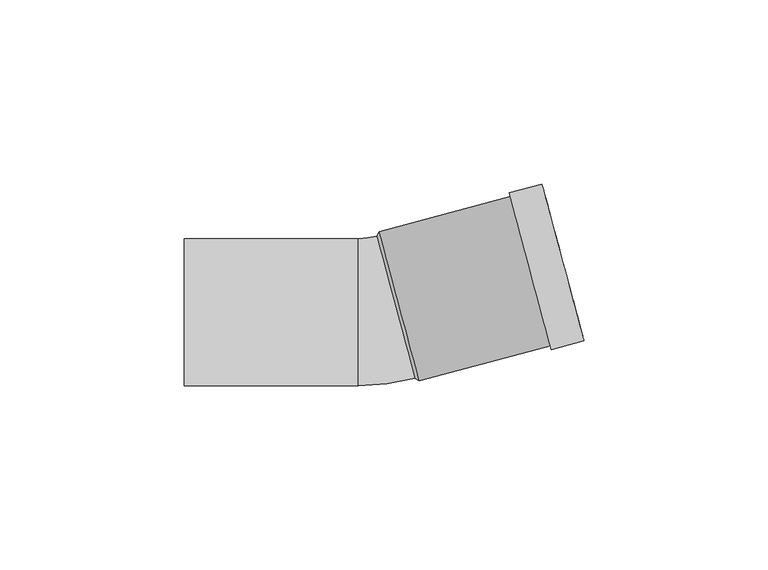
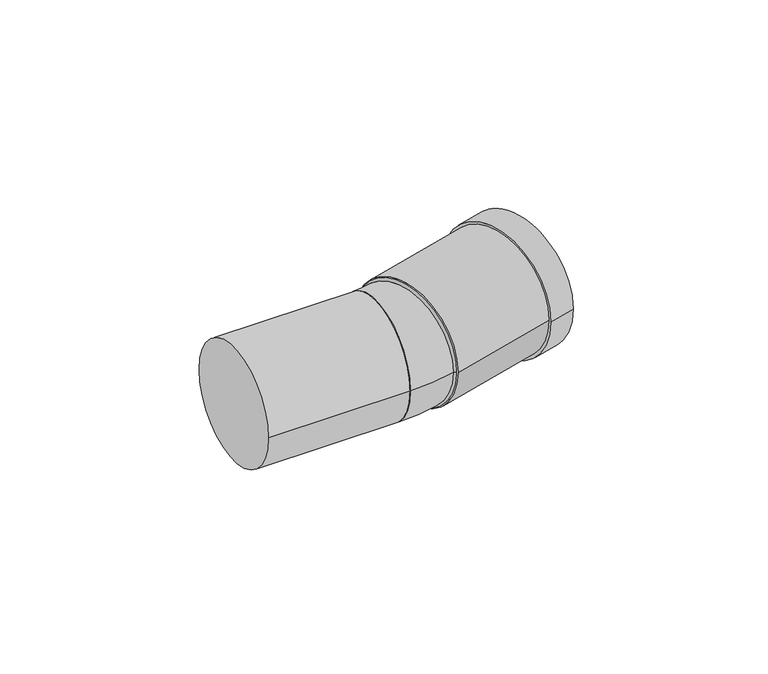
"""IFC4 building model written with IfcOpenShell, lengths in millimetres: pipe fitting geometry, Superdrain HT bend : Superdrain HT Bend."""

from ifc_helpers import new_model, si_unit, point, frame, origin, origin_2d, place, context, project, spatial, polyline, circle_curve, ellipse_curve, trimmed, segment, composite_curve, outline, extrude, source, transform, mapped, element, save
from ifc_brep_helpers import plane_surface, revolved_surface, advanced_brep


def pipe_fitting_fda7960f(model_context):
    return source(origin(), model_context, "Body", "SolidModel", [
        advanced_brep(
        [(10.1991952, -17.9726575, 0.0), (-0.1535666, 20.6643756, 0.0), (-5.2, -20.0, 0.0), (-5.2, 20.0, 0.0)],
        [
            (0, 1, circle_curve(frame((5.0228143, 1.345859, 0.0), z_axis=(0.965925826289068, 0.25881904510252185, 0.0), x_axis=(-0.25881904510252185, 0.965925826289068, 0.0)), 20.0)),
            (1, 0, circle_curve(frame((5.0228143, 1.345859, 0.0), z_axis=(0.965925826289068, 0.2588190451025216, 0.0), x_axis=(-0.2588190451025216, 0.965925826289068, 0.0)), 20.0)),
            (2, 3, circle_curve(frame((-5.2, 0.0, 0.0), z_axis=(-1.0, 0.0, 0.0), x_axis=(0.0, 1.0, 0.0)), 20.0)),
            (3, 2, circle_curve(frame((-5.2, 0.0, 0.0), z_axis=(-1.0, 0.0, 0.0), x_axis=(0.0, 1.0, 0.0)), 20.0)),
            (3, 1, circle_curve(frame((-5.2, 39.4979214, 0.0), z_axis=(0.0, 0.0, 1.0), x_axis=(1.0, 0.0, 0.0)), 19.4979214)),
            (0, 2, circle_curve(frame((-5.2, 39.4979214, 0.0), z_axis=(0.0, 0.0, -1.0), x_axis=(1.0, 0.0, 0.0)), 59.4979214)),
        ],
        [
            plane_surface(frame((5.0228143, 1.345859, 0.0), z_axis=(0.965925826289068, 0.25881904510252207, 0.0), x_axis=(0.0, 0.0, -1.0))),
            plane_surface(frame((-5.2, 0.0, 0.0), z_axis=(-1.0, 0.0, 0.0), x_axis=(0.0, 0.0, -1.0))),
            revolved_surface(trimmed(ellipse_curve(frame((34.2979214, 39.4979214, 0.0), z_axis=(0.0, -1.0, 0.0), x_axis=(-1.0, 0.0, 0.0)), 20.0, 20.0), [point((14.2979214, 39.4979214, 0.0))], [point((54.2979214, 39.4979214, 0.0))], True, "CARTESIAN"), (-5.2, 39.4979214, 0.0), (0.0, 0.0, 1.0)),
            revolved_surface(trimmed(ellipse_curve(frame((34.2979214, 39.4979214, 0.0), z_axis=(0.0, -1.0, 0.0), x_axis=(-1.0, 0.0, 0.0)), 20.0, 20.0), [point((54.2979214, 39.4979214, 0.0))], [point((14.2979214, 39.4979214, 0.0))], True, "CARTESIAN"), (-5.2, 39.4979214, 0.0), (0.0, 0.0, 1.0)),
        ],
        [
            (0, [[1, 2]]),
            (1, [[3, 4]]),
            (2, [[-4, 5, -1, 6]]),
            (3, [[-3, -6, -2, -5]]),
        ],
    ),
        extrude(outline(composite_curve([segment(trimmed(circle_curve(origin_2d(), 21.0), [point((0.0, 21.0000001))], [point((0.0, -20.9999999))], False, "CARTESIAN"), True, "CONTINUOUS"), segment(trimmed(circle_curve(origin_2d(), 21.0), [point((0.0, -20.9999999))], [point((0.0, 21.0000001))], False, "CARTESIAN"), True, "CONTINUOUS")], self_intersect=False), holes=[composite_curve([segment(trimmed(circle_curve(origin_2d(), 20.0), [point((0.0, 20.0))], [point((0.0, -20.0))], True, "CARTESIAN"), True, "CONTINUOUS"), segment(trimmed(circle_curve(origin_2d(), 20.0), [point((0.0, -20.0))], [point((0.0, 20.0))], True, "CARTESIAN"), True, "CONTINUOUS")], self_intersect=False)]), frame((5.9887401, 1.6046781, 0.0), z_axis=(0.9659258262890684, 0.2588190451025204, 0.0), x_axis=(0.0, 0.0, 1.0)), (0.0, 0.0, 1.0), 46.0),
        extrude(outline(composite_curve([segment(trimmed(circle_curve(origin_2d(), 22.05), [point((0.0, -22.05))], [point((0.0, 22.0499999))], False, "CARTESIAN"), True, "CONTINUOUS"), segment(trimmed(circle_curve(origin_2d(), 22.05), [point((0.0, 22.0499999))], [point((0.0, -22.05))], False, "CARTESIAN"), True, "CONTINUOUS")], self_intersect=False), holes=[composite_curve([segment(trimmed(circle_curve(origin_2d(), 20.0), [point((0.0, -20.0000001))], [point((0.0, 20.0))], True, "CARTESIAN"), True, "CONTINUOUS"), segment(trimmed(circle_curve(origin_2d(), 20.0), [point((0.0, 20.0))], [point((0.0, -20.0000001))], True, "CARTESIAN"), True, "CONTINUOUS")], self_intersect=False)]), frame((41.5348105, 11.1292189, 0.0), z_axis=(0.9659258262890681, 0.2588190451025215, 0.0), x_axis=(0.0, 0.0, 1.0)), (0.0, 0.0, 1.0), 9.2),
        advanced_brep(
        [(11.4239401, -18.6797643, 0.0), (0.5535402, 21.8891204, 0.0), (10.1991952, -17.9726575, 0.0), (-0.1535666, 20.6643756, 0.0)],
        [
            (0, 1, circle_curve(frame((5.9887401, 1.6046781, 0.0), z_axis=(0.9659258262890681, 0.25881904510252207, 0.0), x_axis=(0.25881904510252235, -0.965925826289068, 0.0)), 21.0)),
            (1, 0, circle_curve(frame((5.9887401, 1.6046781, 0.0), z_axis=(0.9659258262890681, 0.25881904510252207, 0.0), x_axis=(-0.2588190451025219, 0.965925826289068, 0.0)), 21.0)),
            (2, 3, circle_curve(frame((5.0228143, 1.345859, 0.0), z_axis=(-0.9659258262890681, -0.25881904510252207, 0.0), x_axis=(-0.2588190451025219, 0.965925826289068, 0.0)), 20.0)),
            (3, 2, circle_curve(frame((5.0228143, 1.345859, 0.0), z_axis=(-0.9659258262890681, -0.25881904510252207, 0.0), x_axis=(0.25881904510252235, -0.965925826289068, 0.0)), 20.0)),
            (3, 1),
            (0, 2),
        ],
        [
            plane_surface(frame((5.9887401, 1.6046781, 0.0), z_axis=(0.9659258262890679, 0.25881904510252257, 0.0), x_axis=(0.0, 0.0, -1.0))),
            plane_surface(frame((5.0228143, 1.345859, 0.0), z_axis=(-0.9659258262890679, -0.25881904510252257, 0.0), x_axis=(0.0, 0.0, -1.0))),
            revolved_surface(polyline([(-0.15356659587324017, 20.66437550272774, 0.0), (0.55354020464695, 21.889120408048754, 0.0)]), (-14.2957022, -3.8305219, 0.0), (0.9659258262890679, 0.258819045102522, 0.0)),
            revolved_surface(polyline([(10.199195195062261, -17.97265749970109, 0.0), (11.423940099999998, -18.6797643, 0.0)]), (-14.2957022, -3.8305219, 0.0), (0.9659258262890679, 0.258819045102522, 0.0)),
        ],
        [
            (0, [[1, 2]]),
            (1, [[3, 4]]),
            (2, [[-4, 5, -1, 6]]),
            (3, [[-3, -6, -2, -5]]),
        ],
    ),
        extrude(outline(composite_curve([segment(trimmed(circle_curve(origin_2d(), 20.0), [point((-20.0, 0.0))], [point((20.0, 0.0))], False, "CARTESIAN"), True, "CONTINUOUS"), segment(trimmed(circle_curve(origin_2d(), 20.0), [point((20.0, 0.0))], [point((-20.0, 0.0))], False, "CARTESIAN"), True, "CONTINUOUS")], self_intersect=False)), frame((-52.5, 0.0, 0.0), z_axis=(1.0, 0.0, 0.0), x_axis=(0.0, 1.0, 0.0)), (0.0, 0.0, 1.0), 47.3),
    ])


if __name__ == "__main__":
    model = new_model("IFC4")
    model_context = context("Model", 3, world=origin())
    ifc_project = project(units=[si_unit("LENGTHUNIT", "METRE", prefix="MILLI")], contexts=[model_context])
    site = spatial("IfcSite", under=ifc_project)
    building = spatial("IfcBuilding", under=site)
    placement = place(None, origin())
    pipe_fitting_shape = pipe_fitting_fda7960f(model_context)
    element("IfcPipeFitting", 1, ObjectType="Superdrain HT bend : Superdrain HT Bend", at=placement, inside=building, context=model_context, shape_type="MappedRepresentation", body=[
        mapped(pipe_fitting_shape, transform((0.0, 0.0, 0.0), x_axis=(1.0, 0.0, 0.0), y_axis=(0.0, 1.0, 0.0), z_axis=(0.0, 0.0, 1.0))),
    ])
    save(model, "model.ifc")
